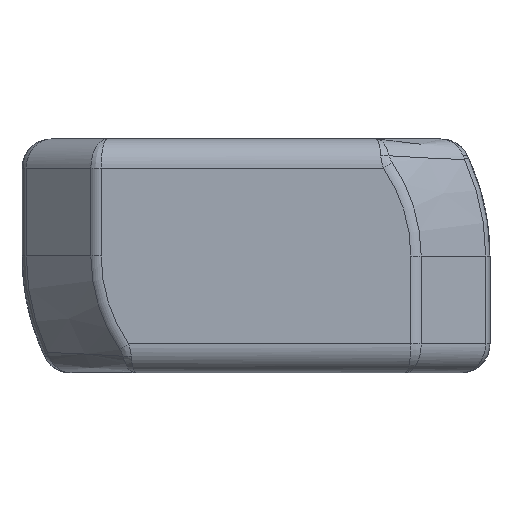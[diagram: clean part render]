
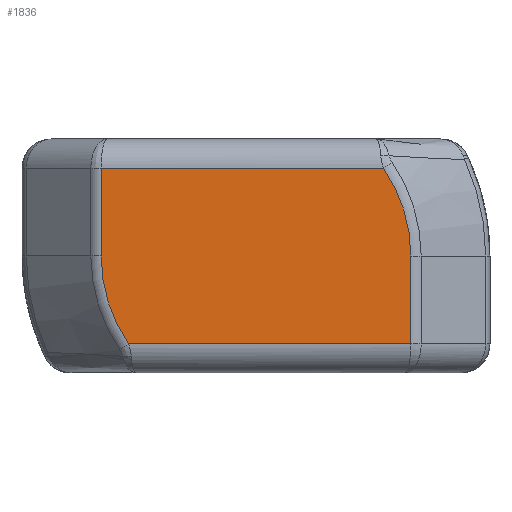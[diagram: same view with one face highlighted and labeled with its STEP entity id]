
A CAD part, front view. The second image highlights one B-rep face of the part: STEP entity #1836.
In plain terms, the highlighted planar face has unit normal (0, -1, 0).
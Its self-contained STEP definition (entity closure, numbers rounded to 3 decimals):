
#29 = CARTESIAN_POINT ( 'NONE',  ( 0., 0., 3. ) ) ;
#91 = DIRECTION ( 'NONE',  ( 1., 0., 0. ) ) ;
#494 = VERTEX_POINT ( 'NONE', #2665 ) ;
#543 = LINE ( 'NONE', #29, #1360 ) ;
#565 = ORIENTED_EDGE ( 'NONE', *, *, #3068, .T. ) ;
#573 = EDGE_CURVE ( 'NONE', #6539, #4142, #4320, .T. ) ;
#617 = EDGE_CURVE ( 'NONE', #4575, #5685, #1221, .T. ) ;
#657 = CIRCLE ( 'NONE', #4470, 5.293 ) ;
#707 = DIRECTION ( 'NONE',  ( 0., 0., -1. ) ) ;
#714 = DIRECTION ( 'NONE',  ( 0., 0., 1. ) ) ;
#889 = CARTESIAN_POINT ( 'NONE',  ( 5.293, 0., 0. ) ) ;
#902 = EDGE_LOOP ( 'NONE', ( #4618, #4793, #4972, #565, #6138, #2909 ) ) ;
#1148 = VERTEX_POINT ( 'NONE', #889 ) ;
#1208 = EDGE_CURVE ( 'NONE', #494, #4575, #543, .T. ) ;
#1221 = LINE ( 'NONE', #1894, #3751 ) ;
#1290 = PLANE ( 'NONE',  #2568 ) ;
#1360 = VECTOR ( 'NONE', #4128, 1000. ) ;
#1615 = DIRECTION ( 'NONE',  ( 0., -1., 0. ) ) ;
#1836 = ADVANCED_FACE ( 'NONE', ( #4384 ), #1290, .F. ) ;
#1894 = CARTESIAN_POINT ( 'NONE',  ( -5.293, 0., 0. ) ) ;
#2149 = EDGE_CURVE ( 'NONE', #4142, #1148, #5475, .T. ) ;
#2568 = AXIS2_PLACEMENT_3D ( 'NONE', #5437, #4766, #91 ) ;
#2665 = CARTESIAN_POINT ( 'NONE',  ( 4.361, 0., 3. ) ) ;
#2902 = CARTESIAN_POINT ( 'NONE',  ( 5.293, 0., 0. ) ) ;
#2909 = ORIENTED_EDGE ( 'NONE', *, *, #617, .T. ) ;
#2995 = CIRCLE ( 'NONE', #4517, 5.293 ) ;
#3068 = EDGE_CURVE ( 'NONE', #1148, #494, #2995, .T. ) ;
#3691 = DIRECTION ( 'NONE',  ( 0., 0., 1. ) ) ;
#3751 = VECTOR ( 'NONE', #707, 1000. ) ;
#3851 = DIRECTION ( 'NONE',  ( 0., -1., 0. ) ) ;
#4128 = DIRECTION ( 'NONE',  ( -1., 0., 0. ) ) ;
#4142 = VERTEX_POINT ( 'NONE', #6689 ) ;
#4320 = LINE ( 'NONE', #6547, #6021 ) ;
#4359 = CARTESIAN_POINT ( 'NONE',  ( 0., 0., 0. ) ) ;
#4384 = FACE_OUTER_BOUND ( 'NONE', #902, .T. ) ;
#4470 = AXIS2_PLACEMENT_3D ( 'NONE', #4359, #1615, #3691 ) ;
#4517 = AXIS2_PLACEMENT_3D ( 'NONE', #4900, #3851, #714 ) ;
#4575 = VERTEX_POINT ( 'NONE', #6704 ) ;
#4618 = ORIENTED_EDGE ( 'NONE', *, *, #4684, .T. ) ;
#4684 = EDGE_CURVE ( 'NONE', #5685, #6539, #657, .T. ) ;
#4766 = DIRECTION ( 'NONE',  ( 0., 1., 0. ) ) ;
#4793 = ORIENTED_EDGE ( 'NONE', *, *, #573, .T. ) ;
#4900 = CARTESIAN_POINT ( 'NONE',  ( 0., 0., 0. ) ) ;
#4972 = ORIENTED_EDGE ( 'NONE', *, *, #2149, .T. ) ;
#4974 = DIRECTION ( 'NONE',  ( 0., 0., 1. ) ) ;
#5021 = DIRECTION ( 'NONE',  ( 1., 0., 0. ) ) ;
#5437 = CARTESIAN_POINT ( 'NONE',  ( 0., 0., 0. ) ) ;
#5475 = LINE ( 'NONE', #2902, #5726 ) ;
#5685 = VERTEX_POINT ( 'NONE', #5877 ) ;
#5705 = CARTESIAN_POINT ( 'NONE',  ( -4.361, 0., -3. ) ) ;
#5726 = VECTOR ( 'NONE', #4974, 1000. ) ;
#5877 = CARTESIAN_POINT ( 'NONE',  ( -5.293, 0., 0. ) ) ;
#6021 = VECTOR ( 'NONE', #5021, 1000. ) ;
#6138 = ORIENTED_EDGE ( 'NONE', *, *, #1208, .T. ) ;
#6539 = VERTEX_POINT ( 'NONE', #5705 ) ;
#6547 = CARTESIAN_POINT ( 'NONE',  ( 0., 0., -3. ) ) ;
#6689 = CARTESIAN_POINT ( 'NONE',  ( 5.293, 0., -3. ) ) ;
#6704 = CARTESIAN_POINT ( 'NONE',  ( -5.293, 0., 3. ) ) ;
